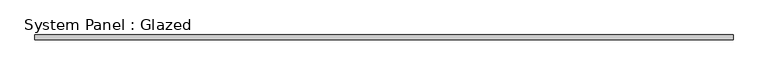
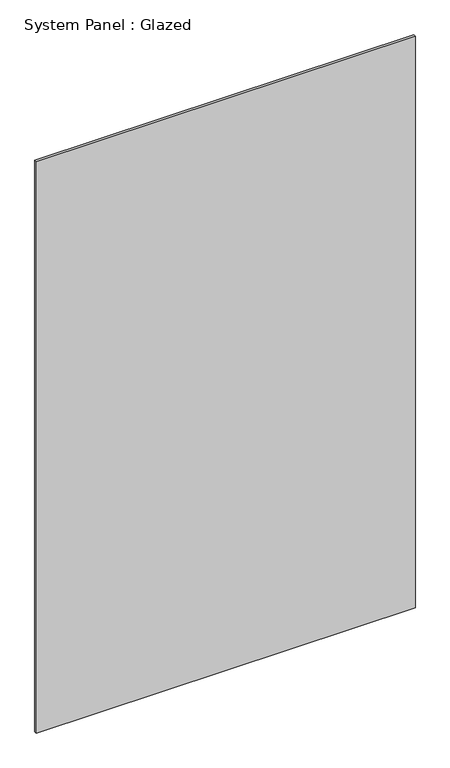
"""IFC4 building model written with IfcOpenShell, lengths in millimetres: plate geometry, System Panel : Glazed."""

from ifc_helpers import new_model, si_unit, origin, origin_with_axes, place, context, project, spatial, polyline, outline, extrude, source, transform, mapped, element, save


def system_panel_glazed_b36aab9d(model_context):
    return source(origin(), model_context, "Body", "SweptSolid", [
        extrude(outline(polyline([(730.0, -5.0), (-730.0, -5.0), (-730.0, 5.0), (730.0, 5.0), (730.0, -5.0)])), origin_with_axes(), (0.0, 0.0, 1.0), 2325.0),
    ])


if __name__ == "__main__":
    model = new_model("IFC4")
    model_context = context("Model", 3, world=origin())
    ifc_project = project(units=[si_unit("LENGTHUNIT", "METRE", prefix="MILLI")], contexts=[model_context])
    site = spatial("IfcSite", under=ifc_project)
    building = spatial("IfcBuilding", under=site)
    placement = place(None, origin())
    system_panel_glazed_shape = system_panel_glazed_b36aab9d(model_context)
    element("IfcPlate", 1, ObjectType="System Panel : Glazed", at=placement, inside=building, context=model_context, shape_type="MappedRepresentation", body=[
        mapped(system_panel_glazed_shape, transform((0.0, 0.0, 0.0), x_axis=(1.0, 0.0, 0.0), y_axis=(0.0, 1.0, 0.0), z_axis=(0.0, 0.0, 1.0))),
    ])
    save(model, "model.ifc")
